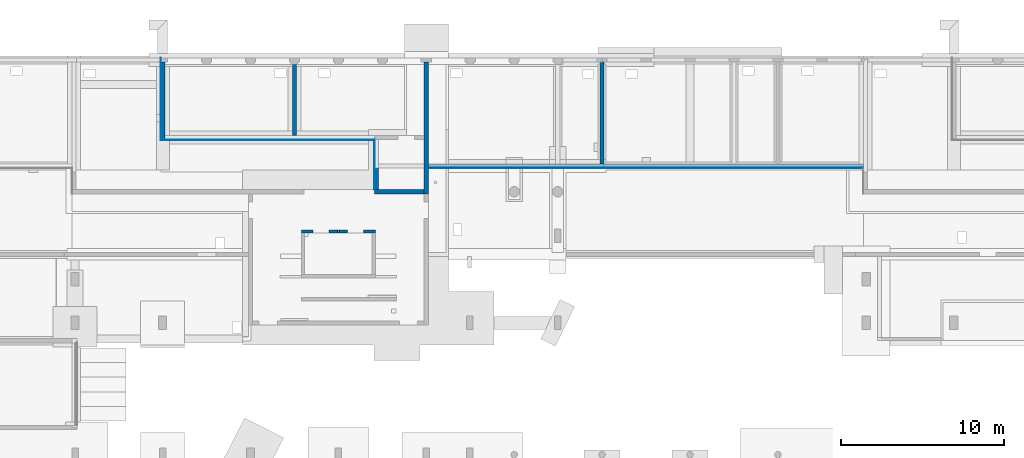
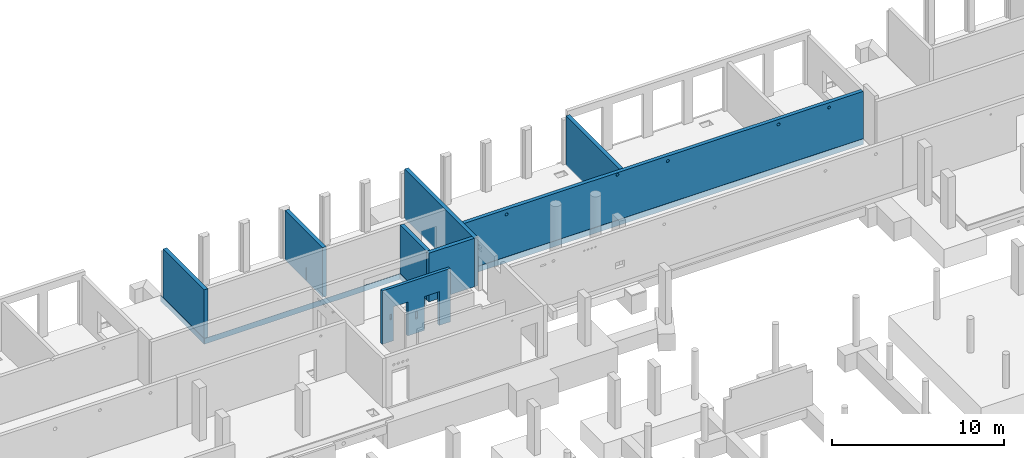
# One storey, part 42 of 60: 12 walls, 16 openings.
"""IFC2X3 building model written with IfcOpenShell, lengths in millimetres."""

from ifc_helpers import new_model, entity, si_unit, converted_unit, derived_unit, direction, frame, frame_2d, origin, origin_2d_with_axis, place, context, subcontext, project, spatial, polyline, rectangle, circle, extrude, clip, bounded_halfspace, material, layer, layer_set, layer_usage, type_object, element, save


model = new_model("IFC2X3")

# Units and contexts
model_context = context("Model", 3, precision=0.01, world=origin(), true_north=direction((6.12303176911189e-17, 1.0)))
body_context = subcontext(model_context, "Body", "Model", "MODEL_VIEW")
ifc_project = project(units=[si_unit("LENGTHUNIT", "METRE", prefix="MILLI"), si_unit("AREAUNIT", "SQUARE_METRE"), si_unit("VOLUMEUNIT", "CUBIC_METRE"), converted_unit("PLANEANGLEUNIT", "DEGREE", entity("IfcRatioMeasure", 0.0174532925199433), si_unit("PLANEANGLEUNIT", "RADIAN"), dimensions=[0, 0, 0, 0, 0, 0, 0]), si_unit("MASSUNIT", "GRAM", prefix="KILO"), derived_unit("MASSDENSITYUNIT", [(si_unit("MASSUNIT", "GRAM", prefix="KILO"), 1), (si_unit("LENGTHUNIT", "METRE"), -3)]), si_unit("TIMEUNIT", "SECOND"), si_unit("FREQUENCYUNIT", "HERTZ"), si_unit("THERMODYNAMICTEMPERATUREUNIT", "DEGREE_CELSIUS"), derived_unit("THERMALTRANSMITTANCEUNIT", [(si_unit("MASSUNIT", "GRAM", prefix="KILO"), 1), (si_unit("THERMODYNAMICTEMPERATUREUNIT", "KELVIN"), -1), (si_unit("TIMEUNIT", "SECOND"), -3)]), derived_unit("VOLUMETRICFLOWRATEUNIT", [(si_unit("LENGTHUNIT", "METRE"), 3), (si_unit("TIMEUNIT", "SECOND"), -1)]), si_unit("ELECTRICCURRENTUNIT", "AMPERE"), si_unit("ELECTRICVOLTAGEUNIT", "VOLT"), si_unit("POWERUNIT", "WATT"), si_unit("FORCEUNIT", "NEWTON", prefix="KILO"), si_unit("ILLUMINANCEUNIT", "LUX"), si_unit("LUMINOUSFLUXUNIT", "LUMEN"), si_unit("LUMINOUSINTENSITYUNIT", "CANDELA"), derived_unit("USERDEFINED", [(si_unit("MASSUNIT", "GRAM", prefix="KILO"), -1), (si_unit("LENGTHUNIT", "METRE"), -2), (si_unit("TIMEUNIT", "SECOND"), 3), (si_unit("LUMINOUSFLUXUNIT", "LUMEN"), 1)]), derived_unit("LINEARVELOCITYUNIT", [(si_unit("LENGTHUNIT", "METRE"), 1), (si_unit("TIMEUNIT", "SECOND"), -1)]), si_unit("PRESSUREUNIT", "PASCAL"), derived_unit("USERDEFINED", [(si_unit("LENGTHUNIT", "METRE"), -2), (si_unit("MASSUNIT", "GRAM", prefix="KILO"), 1), (si_unit("TIMEUNIT", "SECOND"), -2)])], contexts=[model_context])

# Site, building, storey
site_placement = place(None, origin())
site = spatial("IfcSite", under=ifc_project, at=site_placement, Name="Default", CompositionType="ELEMENT")
building_placement = place(site_placement, origin())
building = spatial("IfcBuilding", under=site, at=building_placement, Name="niet gebruiken", CompositionType="ELEMENT")
storey_placement = place(building_placement, origin())
storey = spatial("IfcBuildingStorey", under=building, at=storey_placement, Name="00 begane grond", CompositionType="ELEMENT", Elevation=0.0)

# Wall, opening
ifc_material_1 = material(Name="NLRS_f2_beton ihwg")
ifc_layer_1 = layer(ifc_material_1, 250.0)
ifc_layer_set_1 = layer_set([ifc_layer_1], Name="Basic Wall:NLRS_22.21_WA_beton ihwg d=250_gen")
ifc_layer_usage_1 = layer_usage(ifc_layer_set_1, "AXIS2", "NEGATIVE", 125.0)
wall_type_1 = type_object("IfcWallType", Name="Basic Wall:NLRS_22.21_WA_beton ihwg d=250_gen", PredefinedType="STANDARD", material=ifc_layer_set_1)
wall_1_placement = place(storey_placement, frame((48600.0, 53006.0, -160.0), z_axis=(0.0, 0.0, 1.0), x_axis=(0.0, -1.0, 0.0)))
wall_1 = element("IfcWallStandardCase", 1, at=wall_1_placement, inside=storey, type_object=wall_type_1, material=ifc_layer_usage_1, Name="Basic Wall:NLRS_22.21_WA_beton ihwg d=250_gen", ObjectType="Basic Wall:NLRS_22.21_WA_beton ihwg d=250_gen", context=body_context, shape_type="Clipping", body=[
    clip(clip(clip(extrude(rectangle(XDim=8100.0, YDim=249.999999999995, at=frame_2d((4050.0, -8.59756710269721e-13), x_axis=(-1.0, 0.0))), origin(), (0.0, 0.0, 1.0), 3510.0), bounded_halfspace(frame((8100.0, -125.0, 70.0)), True, frame((8100.0, -125.0, 70.0)), polyline([(0.0, 0.0), (0.0, 250.0), (-3565.0, 250.0), (-3565.0, 210.0), (-3570.0, 210.0), (-3570.0, 0.0), (-3320.0, 0.0), (-250.0, 0.0), (0.0, 0.0)]))), bounded_halfspace(frame((4530.0, -125.0, 70.0), z_axis=(-1.0, 0.0, 0.0), x_axis=(0.0, 0.0, 1.0)), True, frame((4530.0, -125.0, 70.0), z_axis=(-1.0, 0.0, 0.0), x_axis=(0.0, 0.0, 1.0)), polyline([(0.0, 0.0), (0.0, 210.0), (0.0, 250.0), (-70.0, 250.0), (-70.0, 0.0), (0.0, 0.0)]))), bounded_halfspace(frame((0.0, -125.0, 3510.0), z_axis=(0.0, 0.0, -1.0), x_axis=(1.0, 0.0, 0.0)), True, frame((0.0, -125.0, 3510.0), z_axis=(0.0, 0.0, -1.0), x_axis=(1.0, 0.0, 0.0)), polyline([(0.0, 0.0), (0.0, -20.0), (0.0, -230.0), (0.0, -250.0), (2580.0, -250.0), (6260.0, -250.0), (6510.0, -250.0), (8100.0, -250.0), (8100.0, 0.0), (7850.0, 0.0), (4780.0, 0.0), (4530.0, 0.0), (0.0, 0.0)]))),
])
opening_1_placement = place(wall_1_placement, origin())
element("IfcOpeningElement", 2, at=opening_1_placement, cuts=wall_1, Name="Basic Wall:NLRS_22.21_WA_beton ihwg d=250_gen", ObjectType="Recess", context=body_context, shape_type="SweptSolid", body=[
    extrude(rectangle(XDim=890.0, YDim=49.9999999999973, at=origin_2d_with_axis()), frame((4510.0, 85.0, 515.0), z_axis=(0.0, 1.0, 0.0), x_axis=(0.0, 0.0, -1.0)), (0.0, 0.0, 1.0), 40.0000000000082),
])

# Wall
ifc_layer_usage_2 = layer_usage(ifc_layer_set_1, "AXIS2", "NEGATIVE", 125.0)
wall_2_placement = place(storey_placement, frame((32425.0, 53006.0, -160.0), z_axis=(0.0, 0.0, 1.0), x_axis=(0.0, -1.0, 0.0)))
element("IfcWallStandardCase", 3, at=wall_2_placement, inside=storey, type_object=wall_type_1, material=ifc_layer_usage_2, Name="Basic Wall:NLRS_22.21_WA_beton ihwg d=250_gen", ObjectType="Basic Wall:NLRS_22.21_WA_beton ihwg d=250_gen", context=body_context, shape_type="SweptSolid", body=[
    extrude(rectangle(XDim=4779.99999999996, YDim=250.000000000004, at=frame_2d((2389.99999999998, 0.0), x_axis=(-1.0, 0.0))), origin(), (0.0, 0.0, 1.0), 3510.00000000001),
])

# Wall, openings
ifc_layer_usage_3 = layer_usage(ifc_layer_set_1, "AXIS2", "NEGATIVE", 125.0)
wall_3_placement = place(storey_placement, frame((40500.0, 52846.0, -160.0), z_axis=(0.0, 0.0, 1.0), x_axis=(0.0, -1.0, 0.0)))
wall_3 = element("IfcWallStandardCase", 4, at=wall_3_placement, inside=storey, type_object=wall_type_1, material=ifc_layer_usage_3, Name="Basic Wall:NLRS_22.21_WA_beton ihwg d=250_gen", ObjectType="Basic Wall:NLRS_22.21_WA_beton ihwg d=250_gen", context=body_context, shape_type="SweptSolid", body=[
    extrude(rectangle(XDim=4370.00000000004, YDim=249.999999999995, at=frame_2d((2185.00000000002, 0.0), x_axis=(-1.0, 0.0))), origin(), (0.0, 0.0, 1.0), 3510.00000000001),
])
opening_2_placement = place(wall_3_placement, origin())
element("IfcOpeningElement", 5, at=opening_2_placement, cuts=wall_3, Name="Basic Wall:NLRS_22.21_WA_beton ihwg d=250_gen", ObjectType="Recess", context=body_context, shape_type="SweptSolid", body=[
    extrude(rectangle(XDim=890.0, YDim=49.9999999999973, at=origin_2d_with_axis()), frame((2250.0, 85.0, 515.0), z_axis=(0.0, 1.0, 0.0), x_axis=(0.0, 0.0, -1.0)), (0.0, 0.0, 1.0), 40.0000000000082),
])
opening_3_placement = place(wall_3_placement, origin())
element("IfcOpeningElement", 6, at=opening_3_placement, cuts=wall_3, Name="Basic Wall:NLRS_22.21_WA_beton ihwg d=250_gen", ObjectType="Recess", context=body_context, shape_type="SweptSolid", body=[
    extrude(rectangle(XDim=890.0, YDim=49.9999999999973, at=origin_2d_with_axis()), frame((2450.0, -125.0, 515.0), z_axis=(0.0, 1.0, 0.0), x_axis=(0.0, 0.0, -1.0)), (0.0, 0.0, 1.0), 40.0000000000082),
])

# Wall, opening
ifc_layer_usage_4 = layer_usage(ifc_layer_set_1, "AXIS2", "NEGATIVE", 125.0)
wall_4_placement = place(storey_placement, frame((45425.0, 45031.0, -90.0)))
wall_4 = element("IfcWallStandardCase", 7, at=wall_4_placement, inside=storey, type_object=wall_type_1, material=ifc_layer_usage_4, Name="Basic Wall:NLRS_22.21_WA_beton ihwg d=250_gen", ObjectType="Basic Wall:NLRS_22.21_WA_beton ihwg d=250_gen", context=body_context, shape_type="Clipping", body=[
    clip(clip(extrude(rectangle(XDim=3049.99999999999, YDim=249.999999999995, at=frame_2d((1525.0, 1.56319401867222e-13), x_axis=(-1.0, 0.0))), origin(), (0.0, 0.0, 1.0), 3440.0), bounded_halfspace(frame((0.0, -125.0, 3440.0), z_axis=(0.0, 0.0, -1.0), x_axis=(0.0, -1.0, 0.0)), True, frame((0.0, -125.0, 3440.0), z_axis=(0.0, 0.0, -1.0), x_axis=(0.0, -1.0, 0.0)), polyline([(0.0, 0.0), (-250.0, 0.0), (-250.0, -250.0), (-250.0, -3050.0), (0.0, -3050.0), (0.0, 0.0)]))), bounded_halfspace(frame((3050.0, -125.0, 0.0), z_axis=(0.0, 0.0, 1.0), x_axis=(0.0, -1.0, 0.0)), True, frame((3050.0, -125.0, 0.0), z_axis=(0.0, 0.0, 1.0), x_axis=(0.0, -1.0, 0.0)), polyline([(0.0, 0.0), (-250.0, 0.0), (-250.0, -2800.0), (-250.0, -3050.0), (0.0, -3050.0), (0.0, 0.0)]))),
])
opening_4_placement = place(wall_4_placement, origin())
element("IfcOpeningElement", 8, at=opening_4_placement, cuts=wall_4, Name="Basic Wall:NLRS_22.21_WA_beton ihwg d=250_gen", ObjectType="Opening", context=body_context, shape_type="SweptSolid", body=[
    extrude(rectangle(XDim=3160.0, YDim=4350.0, at=origin_2d_with_axis()), frame((-2175.0, -1649.0, 1510.0), z_axis=(0.0, 1.0, 0.0), x_axis=(0.0, 0.0, 1.0)), (0.0, 0.0, 1.0), 3048.0),
])

ifc_layer_usage_5 = layer_usage(ifc_layer_set_1, "AXIS2", "NEGATIVE", 125.0)
wall_5_placement = place(storey_placement, frame((59400.0, 52986.0, -160.0), z_axis=(0.0, 0.0, 1.0), x_axis=(0.0, -1.0, 0.0)))
wall_5 = element("IfcWallStandardCase", 9, at=wall_5_placement, inside=storey, type_object=wall_type_1, material=ifc_layer_usage_5, Name="Basic Wall:NLRS_22.21_WA_beton ihwg d=250_gen", ObjectType="Basic Wall:NLRS_22.21_WA_beton ihwg d=250_gen", context=body_context, shape_type="SweptSolid", body=[
    extrude(rectangle(XDim=6239.99999999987, YDim=249.999999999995, at=frame_2d((3119.99999999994, 5.25801624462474e-13), x_axis=(-1.0, 0.0))), origin(), (0.0, 0.0, 1.0), 3510.0),
])
opening_5_placement = place(wall_5_placement, origin())
element("IfcOpeningElement", 10, at=opening_5_placement, cuts=wall_5, Name="Basic Wall:NLRS_22.21_WA_beton ihwg d=250_gen", ObjectType="Recess", context=body_context, shape_type="SweptSolid", body=[
    extrude(rectangle(XDim=890.0, YDim=49.9999999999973, at=origin_2d_with_axis()), frame((4490.0, 85.0, 515.0), z_axis=(0.0, 1.0, 0.0), x_axis=(0.0, 0.0, -1.0)), (0.0, 0.0, 1.0), 40.0000000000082),
])

# Wall, openings
ifc_layer_usage_6 = layer_usage(ifc_layer_set_1, "AXIS2", "NEGATIVE", 125.0)
wall_6_placement = place(storey_placement, frame((48725.0, 46621.0, -160.0)))
wall_6 = element("IfcWallStandardCase", 11, at=wall_6_placement, inside=storey, type_object=wall_type_1, material=ifc_layer_usage_6, Name="Basic Wall:NLRS_22.21_WA_beton ihwg d=250_gen", ObjectType="Basic Wall:NLRS_22.21_WA_beton ihwg d=250_gen", context=body_context, shape_type="Clipping", body=[
    clip(extrude(rectangle(XDim=26725.0000000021, YDim=249.999999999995, at=frame_2d((13362.500000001, -1.77635683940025e-13), x_axis=(-1.0, 0.0))), origin(), (0.0, 0.0, 1.0), 3510.0), bounded_halfspace(frame((0.0, -125.0, 3510.0), z_axis=(0.0, 0.0, -1.0), x_axis=(0.0, -1.0, 0.0)), True, frame((0.0, -125.0, 3510.0), z_axis=(0.0, 0.0, -1.0), x_axis=(0.0, -1.0, 0.0)), polyline([(0.0, 0.0), (-250.0, 0.0), (-250.0, -970.0), (-250.0, -9580.0), (-250.0, -10550.0), (-250.0, -10800.0), (-250.0, -11770.0), (-250.0, -20380.0), (-250.0, -21350.0), (-250.0, -21600.0), (-250.0, -22570.0), (-250.0, -26725.0), (0.0, -26725.0), (0.0, 0.0)]))),
])
opening_6_placement = place(wall_6_placement, origin())
element("IfcOpeningElement", 12, at=opening_6_placement, cuts=wall_6, Name="Basic Wall:NLRS_22.21_WA_beton ihwg d=250_gen", ObjectType="Opening", context=body_context, shape_type="SweptSolid", body=[
    extrude(circle(Radius=100.0, at=frame_2d((0.0, -5.41433564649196e-13), x_axis=(1.0, 0.0))), frame((2835.0, -125.0, 3160.0), z_axis=(0.0, 1.0, 0.0), x_axis=(1.0, 0.0, 0.0)), (0.0, 0.0, 1.0), 250.000000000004),
])
opening_7_placement = place(wall_6_placement, origin())
element("IfcOpeningElement", 13, at=opening_7_placement, cuts=wall_6, Name="Basic Wall:NLRS_22.21_WA_beton ihwg d=250_gen", ObjectType="Opening", context=body_context, shape_type="SweptSolid", body=[
    extrude(circle(Radius=100.0, at=frame_2d((0.0, -5.41433564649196e-13), x_axis=(1.0, 0.0))), frame((21050.0, -125.0, 3160.0), z_axis=(0.0, 1.0, 0.0), x_axis=(1.0, 0.0, 0.0)), (0.0, 0.0, 1.0), 250.000000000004),
])
opening_8_placement = place(wall_6_placement, origin())
element("IfcOpeningElement", 14, at=opening_8_placement, cuts=wall_6, Name="Basic Wall:NLRS_22.21_WA_beton ihwg d=250_gen", ObjectType="Opening", context=body_context, shape_type="SweptSolid", body=[
    extrude(circle(Radius=100.0, at=frame_2d((0.0, -5.41433564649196e-13), x_axis=(1.0, 0.0))), frame((24435.0, -125.0, 3160.0), z_axis=(0.0, 1.0, 0.0), x_axis=(1.0, 0.0, 0.0)), (0.0, 0.0, 1.0), 250.000000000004),
])
opening_9_placement = place(wall_6_placement, origin())
element("IfcOpeningElement", 15, at=opening_9_placement, cuts=wall_6, Name="Basic Wall:NLRS_22.21_WA_beton ihwg d=250_gen", ObjectType="Opening", context=body_context, shape_type="SweptSolid", body=[
    extrude(circle(Radius=100.0, at=frame_2d((0.0, -5.41433564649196e-13), x_axis=(1.0, 0.0))), frame((10250.0, -125.0, 3360.0), z_axis=(0.0, 1.0, 0.0), x_axis=(1.0, 0.0, 0.0)), (0.0, 0.0, 1.0), 250.000000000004),
])
opening_10_placement = place(wall_6_placement, origin())
element("IfcOpeningElement", 16, at=opening_10_placement, cuts=wall_6, Name="Basic Wall:NLRS_22.21_WA_beton ihwg d=250_gen", ObjectType="Opening", context=body_context, shape_type="SweptSolid", body=[
    extrude(circle(Radius=100.0, at=frame_2d((0.0, -5.41433564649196e-13), x_axis=(1.0, 0.0))), frame((13635.0, -125.0, 3160.0), z_axis=(0.0, 1.0, 0.0), x_axis=(1.0, 0.0, 0.0)), (0.0, 0.0, 1.0), 250.000000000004),
])

# Wall, opening
ifc_layer_usage_7 = layer_usage(ifc_layer_set_1, "AXIS2", "NEGATIVE", 125.0)
wall_7_placement = place(storey_placement, frame((45550.0, 48226.0, -90.0), z_axis=(0.0, 0.0, 1.0), x_axis=(0.0, -1.0, 0.0)))
wall_7 = element("IfcWallStandardCase", 17, at=wall_7_placement, inside=storey, type_object=wall_type_1, material=ifc_layer_usage_7, Name="Basic Wall:NLRS_22.21_WA_beton ihwg d=250_gen", ObjectType="Basic Wall:NLRS_22.21_WA_beton ihwg d=250_gen", context=body_context, shape_type="Clipping", body=[
    clip(extrude(rectangle(XDim=3070.00000000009, YDim=249.999999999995, at=frame_2d((1535.00000000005, -1.37134748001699e-12), x_axis=(-1.0, 0.0))), origin(), (0.0, 0.0, 1.0), 3440.0), bounded_halfspace(frame((0.0, -125.0, 3440.0), z_axis=(0.0, 0.0, -1.0), x_axis=(1.0, 0.0, 0.0)), True, frame((0.0, -125.0, 3440.0), z_axis=(0.0, 0.0, -1.0), x_axis=(1.0, 0.0, 0.0)), polyline([(0.0, 0.0), (0.0, -250.0), (3070.0, -250.0), (3070.0, 0.0), (0.0, 0.0)]))),
])
opening_11_placement = place(wall_7_placement, origin())
element("IfcOpeningElement", 18, at=opening_11_placement, cuts=wall_7, Name="Basic Wall:NLRS_22.21_WA_beton ihwg d=250_gen", ObjectType="Opening", context=body_context, shape_type="SweptSolid", body=[
    extrude(rectangle(XDim=3160.0, YDim=250.000000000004, at=frame_2d((4.33431068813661e-12, 0.0), x_axis=(0.0, 1.0))), frame((3195.0, -4475.0, 1510.0), z_axis=(0.0, 1.0, 0.0), x_axis=(1.0, 0.0, 0.0)), (0.0, 0.0, 1.0), 4350.0),
])

# Wall, openings
ifc_material_2 = material(Name="NLRS_f2_beton prefab")
ifc_layer_2 = layer(ifc_material_2, 200.0)
ifc_layer_set_2 = layer_set([ifc_layer_2], Name="Basic Wall:NLRS_22.21_WA_beton prefab d=200_gen")
ifc_layer_usage_8 = layer_usage(ifc_layer_set_2, "AXIS2", "NEGATIVE", 100.0)
wall_type_2 = type_object("IfcWallType", Name="Basic Wall:NLRS_22.21_WA_beton prefab d=200_gen", PredefinedType="STANDARD", material=ifc_layer_set_2)
wall_8_placement = place(storey_placement, frame((40925.0, 42596.0, -60.0)))
wall_8 = element("IfcWallStandardCase", 19, at=wall_8_placement, inside=storey, type_object=wall_type_2, material=ifc_layer_usage_8, Name="Basic Wall:NLRS_22.21_WA_beton prefab d=200_gen", ObjectType="Basic Wall:NLRS_22.21_WA_beton prefab d=200_gen", context=body_context, shape_type="SweptSolid", body=[
    extrude(rectangle(XDim=4549.99999999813, YDim=200.000000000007, at=frame_2d((2274.99999999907, 0.0), x_axis=(-1.0, 0.0))), origin(), (0.0, 0.0, 1.0), 3780.0),
])
opening_12_placement = place(wall_8_placement, origin())
element("IfcOpeningElement", 20, at=opening_12_placement, cuts=wall_8, Name="Basic Wall:NLRS_22.21_WA_beton prefab d=200_gen", ObjectType="Opening", context=body_context, shape_type="SweptSolid", body=[
    extrude(rectangle(XDim=2430.0, YDim=980.000000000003, at=frame_2d((1.13686837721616e-13, 0.0), x_axis=(1.0, 0.0))), frame((1219.99984910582, -1624.0, 1185.0), z_axis=(0.0, 1.0, 0.0), x_axis=(0.0, 0.0, 1.0)), (0.0, 0.0, 1.0), 3048.0),
])
opening_13_placement = place(wall_8_placement, origin())
element("IfcOpeningElement", 21, at=opening_13_placement, cuts=wall_8, Name="Basic Wall:NLRS_22.21_WA_beton prefab d=200_gen", ObjectType="Opening", context=body_context, shape_type="SweptSolid", body=[
    extrude(rectangle(XDim=2430.0, YDim=980.000000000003, at=frame_2d((1.13686837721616e-13, 0.0), x_axis=(1.0, 0.0))), frame((3329.99984910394, -1624.0, 1185.0), z_axis=(0.0, 1.0, 0.0), x_axis=(0.0, 0.0, 1.0)), (0.0, 0.0, 1.0), 3048.0),
])
opening_14_placement = place(wall_8_placement, origin())
element("IfcOpeningElement", 22, at=opening_14_placement, cuts=wall_8, Name="Basic Wall:NLRS_22.21_WA_beton prefab d=200_gen", ObjectType="Opening", context=body_context, shape_type="SweptSolid", body=[
    extrude(rectangle(XDim=370.000000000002, YDim=89.9999999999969, at=origin_2d_with_axis()), frame((569.999849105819, -1424.0, 1745.0), z_axis=(0.0, 1.0, 0.0), x_axis=(0.0, 0.0, 1.0)), (0.0, 0.0, 1.0), 3048.0),
])
opening_15_placement = place(wall_8_placement, origin())
element("IfcOpeningElement", 23, at=opening_15_placement, cuts=wall_8, Name="Basic Wall:NLRS_22.21_WA_beton prefab d=200_gen", ObjectType="Opening", context=body_context, shape_type="SweptSolid", body=[
    extrude(rectangle(XDim=505.000000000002, YDim=135.000000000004, at=origin_2d_with_axis()), frame((2275.0, -1624.0, 1262.5), z_axis=(0.0, 1.0, 0.0), x_axis=(0.0, 0.0, 1.0)), (0.0, 0.0, 1.0), 3048.0),
])

# Walls
ifc_material_3 = material(Name="NLRS_n7_isolatie EPS")
ifc_layer_3 = layer(ifc_material_3, 20.0)
ifc_layer_set_3 = layer_set([ifc_layer_3], Name="Basic Wall:NLRS_21.12_WA_isolatie EPS platen d=20_gen")
ifc_layer_usage_9 = layer_usage(ifc_layer_set_3, "AXIS2", "NEGATIVE", 10.0)
wall_type_3 = type_object("IfcWallType", Name="Basic Wall:NLRS_21.12_WA_isolatie EPS platen d=20_gen", PredefinedType="STANDARD", material=ifc_layer_set_3)
wall_9_placement = place(storey_placement, frame((32290.0, 53256.0, -492.0), z_axis=(0.0, 0.0, 1.0), x_axis=(0.0, -1.0, 0.0)))
element("IfcWallStandardCase", 24, at=wall_9_placement, inside=storey, type_object=wall_type_3, material=ifc_layer_usage_9, Name="Basic Wall:NLRS_21.12_WA_isolatie EPS platen d=20_gen", ObjectType="Basic Wall:NLRS_21.12_WA_isolatie EPS platen d=20_gen", context=body_context, shape_type="SweptSolid", body=[
    extrude(rectangle(XDim=5049.99999999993, YDim=20.0000000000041, at=frame_2d((2524.99999999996, 5.16031661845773e-13), x_axis=(-1.0, 0.0))), origin(), (0.0, 0.0, 1.0), 402.0),
])
ifc_layer_usage_10 = layer_usage(ifc_layer_set_3, "AXIS2", "NEGATIVE", 10.0)
wall_10_placement = place(storey_placement, frame((32300.0, 48216.0, -492.0)))
element("IfcWallStandardCase", 25, at=wall_10_placement, inside=storey, type_object=wall_type_3, material=ifc_layer_usage_10, Name="Basic Wall:NLRS_21.12_WA_isolatie EPS platen d=20_gen", ObjectType="Basic Wall:NLRS_21.12_WA_isolatie EPS platen d=20_gen", context=body_context, shape_type="SweptSolid", body=[
    extrude(rectangle(XDim=13124.9999999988, YDim=19.9999999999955, at=frame_2d((6562.49999999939, -4.35207425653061e-13), x_axis=(-1.0, 0.0))), origin(), (0.0, 0.0, 1.0), 402.000000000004),
])

# Wall, opening
ifc_layer_usage_11 = layer_usage(ifc_layer_set_3, "AXIS2", "NEGATIVE", 10.0)
wall_11_placement = place(storey_placement, frame((45415.0, 48206.0, -492.0), z_axis=(0.0, 0.0, 1.0), x_axis=(0.0, -1.0, 0.0)))
wall_11 = element("IfcWallStandardCase", 26, at=wall_11_placement, inside=storey, type_object=wall_type_3, material=ifc_layer_usage_11, Name="Basic Wall:NLRS_21.12_WA_isolatie EPS platen d=20_gen", ObjectType="Basic Wall:NLRS_21.12_WA_isolatie EPS platen d=20_gen", context=body_context, shape_type="SweptSolid", body=[
    extrude(rectangle(XDim=3049.99999999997, YDim=19.9999999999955, at=frame_2d((1524.99999999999, -9.59232693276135e-14), x_axis=(-1.0, 0.0))), origin(), (0.0, 0.0, 1.0), 402.0),
])
opening_16_placement = place(wall_11_placement, origin())
element("IfcOpeningElement", 27, at=opening_16_placement, cuts=wall_11, Name="Basic Wall:NLRS_21.12_WA_isolatie EPS platen d=20_gen", ObjectType="Opening", context=body_context, shape_type="SweptSolid", body=[
    extrude(rectangle(XDim=3160.0, YDim=250.000000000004, at=frame_2d((4.33431068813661e-12, 0.0), x_axis=(0.0, 1.0))), frame((3175.0, -4340.0, 1912.0), z_axis=(0.0, 1.0, 0.0), x_axis=(1.0, 0.0, 0.0)), (0.0, 0.0, 1.0), 4350.0),
])

# Wall
ifc_layer_usage_12 = layer_usage(ifc_layer_set_3, "AXIS2", "NEGATIVE", 10.0)
wall_12_placement = place(storey_placement, frame((48725.0, 46486.0, -402.0)))
element("IfcWallStandardCase", 28, at=wall_12_placement, inside=storey, type_object=wall_type_3, material=ifc_layer_usage_12, Name="Basic Wall:NLRS_21.12_WA_isolatie EPS platen d=20_gen", ObjectType="Basic Wall:NLRS_21.12_WA_isolatie EPS platen d=20_gen", context=body_context, shape_type="SweptSolid", body=[
    extrude(rectangle(XDim=26725.0000000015, YDim=19.9999999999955, at=frame_2d((13362.5000000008, 2.1049828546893e-13), x_axis=(-1.0, 0.0))), origin(), (0.0, 0.0, 1.0), 402.0),
])

save(model, "model.ifc")
